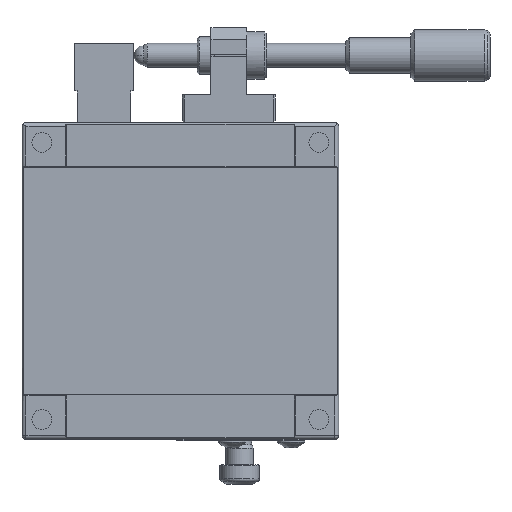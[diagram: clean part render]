
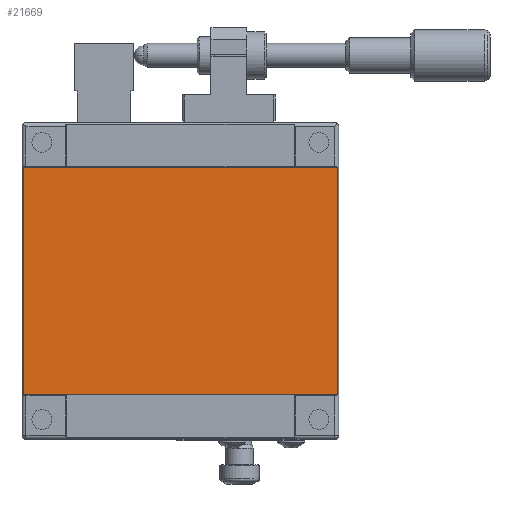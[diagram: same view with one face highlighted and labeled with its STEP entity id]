
A CAD part, front view. The second image highlights one B-rep face of the part: STEP entity #21669.
In plain terms, the highlighted planar face has unit normal (0, -1, 0).
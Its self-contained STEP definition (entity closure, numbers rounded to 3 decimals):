
#392 = VERTEX_POINT ( 'NONE', #21219 ) ;
#941 = ORIENTED_EDGE ( 'NONE', *, *, #28422, .T. ) ;
#1104 = VECTOR ( 'NONE', #40198, 1000. ) ;
#1675 = CARTESIAN_POINT ( 'NONE',  ( 36.401, -7.055, -28.7 ) ) ;
#2978 = DIRECTION ( 'NONE',  ( -1., 0., 0. ) ) ;
#4553 = VERTEX_POINT ( 'NONE', #26821 ) ;
#4626 = CARTESIAN_POINT ( 'NONE',  ( 36.401, -7.055, 28.7 ) ) ;
#5096 = DIRECTION ( 'NONE',  ( -1., 0., 0. ) ) ;
#6684 = EDGE_CURVE ( 'NONE', #4553, #392, #16651, .T. ) ;
#7452 = EDGE_LOOP ( 'NONE', ( #36110, #941, #21698, #35026 ) ) ;
#8274 = CARTESIAN_POINT ( 'NONE',  ( 36.401, -7.055, 28.7 ) ) ;
#9381 = LINE ( 'NONE', #26924, #12991 ) ;
#9415 = EDGE_CURVE ( 'NONE', #17353, #392, #9381, .T. ) ;
#11125 = VECTOR ( 'NONE', #5096, 1000. ) ;
#12991 = VECTOR ( 'NONE', #33603, 1000. ) ;
#13033 = VERTEX_POINT ( 'NONE', #21274 ) ;
#16651 = LINE ( 'NONE', #1675, #11125 ) ;
#17353 = VERTEX_POINT ( 'NONE', #31603 ) ;
#18449 = DIRECTION ( 'NONE',  ( 0., 0., 1. ) ) ;
#19064 = AXIS2_PLACEMENT_3D ( 'NONE', #8274, #42064, #18449 ) ;
#21219 = CARTESIAN_POINT ( 'NONE',  ( -43.313, -7.055, -28.7 ) ) ;
#21274 = CARTESIAN_POINT ( 'NONE',  ( 36.116, -7.055, 28.7 ) ) ;
#21669 = ADVANCED_FACE ( 'NONE', ( #28335 ), #28701, .F. ) ;
#21698 = ORIENTED_EDGE ( 'NONE', *, *, #28723, .T. ) ;
#26821 = CARTESIAN_POINT ( 'NONE',  ( 36.116, -7.055, -28.7 ) ) ;
#26924 = CARTESIAN_POINT ( 'NONE',  ( -43.313, -7.055, 28.7 ) ) ;
#28247 = LINE ( 'NONE', #4626, #29278 ) ;
#28335 = FACE_OUTER_BOUND ( 'NONE', #7452, .T. ) ;
#28422 = EDGE_CURVE ( 'NONE', #4553, #13033, #28750, .T. ) ;
#28701 = PLANE ( 'NONE',  #19064 ) ;
#28723 = EDGE_CURVE ( 'NONE', #13033, #17353, #28247, .T. ) ;
#28750 = LINE ( 'NONE', #39719, #1104 ) ;
#29278 = VECTOR ( 'NONE', #2978, 1000. ) ;
#31603 = CARTESIAN_POINT ( 'NONE',  ( -43.313, -7.055, 28.7 ) ) ;
#33603 = DIRECTION ( 'NONE',  ( 0., 0., -1. ) ) ;
#35026 = ORIENTED_EDGE ( 'NONE', *, *, #9415, .T. ) ;
#36110 = ORIENTED_EDGE ( 'NONE', *, *, #6684, .F. ) ;
#39719 = CARTESIAN_POINT ( 'NONE',  ( 36.116, -7.055, -28.7 ) ) ;
#40198 = DIRECTION ( 'NONE',  ( 0., 0., 1. ) ) ;
#42064 = DIRECTION ( 'NONE',  ( 0., 1., 0. ) ) ;
